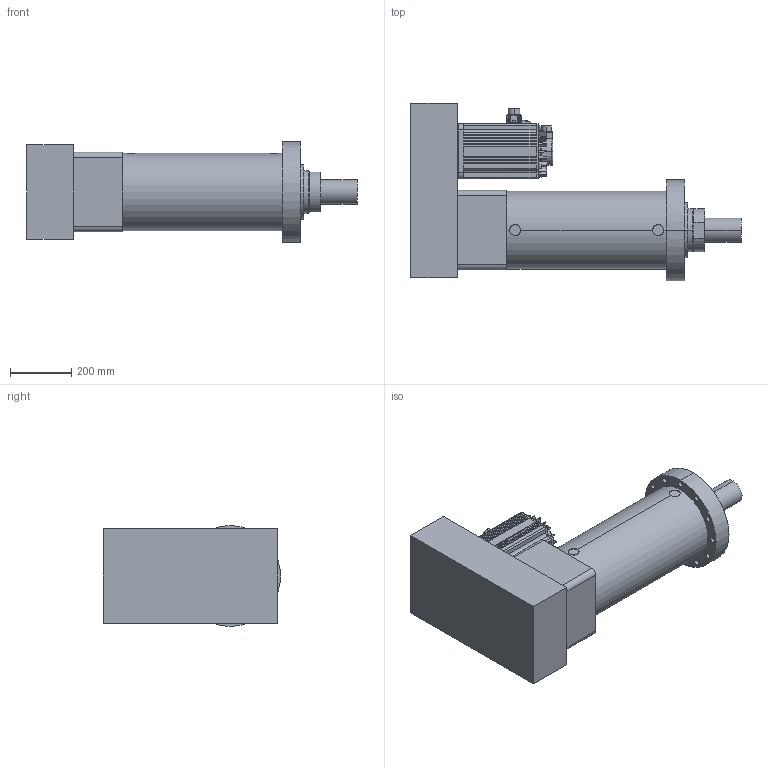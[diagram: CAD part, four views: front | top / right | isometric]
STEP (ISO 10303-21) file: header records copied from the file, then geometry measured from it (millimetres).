
FILE_DESCRIPTION (( 'STEP AP203' ), '1' );
FILE_NAME ('S9殏殿ヶ楊擘假蚾.STEP', '2024-05-27T05:43:14', ( '' ), ( '' ), 'SwSTEP 2.0', 'SolidWorks 2018', '' );
FILE_SCHEMA (( 'CONFIG_CONTROL_DESIGN' ));
Length unit declared in the file: millimetre
Products named in the file (3): S9殏殿ヶ楊擘假蚾; ECMA-LX1855S3-180框號系列機種-5.5KW-400V高慣量系列; S9殏殿ヶ楊擘
Assembly tree (2 placements, depth 2):
  S9殏殿ヶ楊擘假蚾
    S9殏殿ヶ楊擘
    ECMA-LX1855S3-180框號系列機種-5.5KW-400V高慣量系列
Bounding box: 1082 x 580 x 330 mm (x, y, z)
Volume: 75063065.9 mm3; surface area: 1976993.9 mm2
Topology: 2 solids, 5 shells, 728 faces, 1700 edges, 1047 vertices
Faces by surface type: plane 353, cylinder 276, cone 48, bspline 31, torus 20
Entity records: 23350 total; most frequent: CARTESIAN_POINT 6625, ORIENTED_EDGE 3396, DIRECTION 3364, EDGE_CURVE 1698, AXIS2_PLACEMENT_3D 1219, VERTEX_POINT 1047, LINE 926, VECTOR 926
